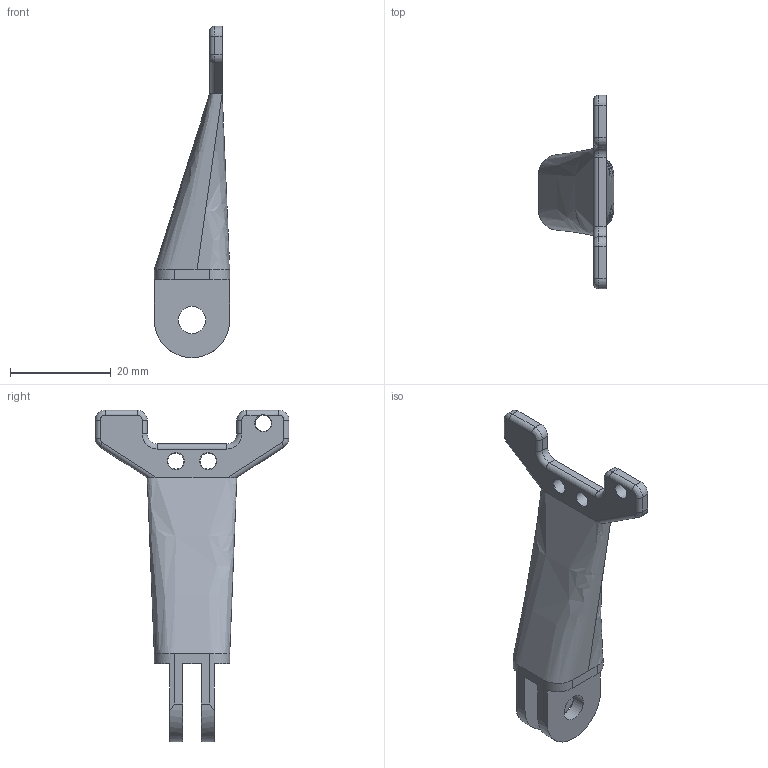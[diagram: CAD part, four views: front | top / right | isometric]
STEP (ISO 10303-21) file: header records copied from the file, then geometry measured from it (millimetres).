
FILE_DESCRIPTION(/* description */ (''),/* implementation_level */ '2;1');
FILE_NAME(/* name */ 'C:/Users/nxa15528/Downloads/MCAD/NXP/Buggy3/B3-200-007 Pixy cam adapt.step',/* time_stamp */ '2021-09-08T07:01:25-05:00',/* author */ (''),/* organization */ (''),/* preprocessor_version */ 'ST-DEVELOPER v18.1',/* originating_system */ 'Autodesk Translation Framework v10.10.0.1391',/* authorisation */ '');
FILE_SCHEMA (('AUTOMOTIVE_DESIGN { 1 0 10303 214 3 1 1 }'));
Length unit declared in the file: millimetre
Products named in the file (1): B3-200-007 Pixy cam adapt
Bounding box: 15 x 38.55 x 65.9 mm (x, y, z)
Volume: 6552.2 mm3; surface area: 3694.4 mm2
Topology: 1 solids, 1 shells, 64 faces, 175 edges, 112 vertices
Faces by surface type: cylinder 28, plane 22, bspline 9, torus 5
Full cylindrical faces by diameter (mm): 3.2 x3, 5.4 x2
Entity records: 2309 total; most frequent: CARTESIAN_POINT 603, DIRECTION 357, ORIENTED_EDGE 350, EDGE_CURVE 175, AXIS2_PLACEMENT_3D 132, VERTEX_POINT 112, LINE 93, VECTOR 93
